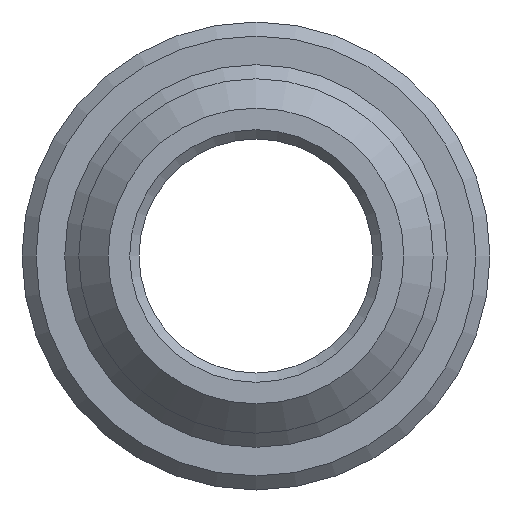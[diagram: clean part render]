
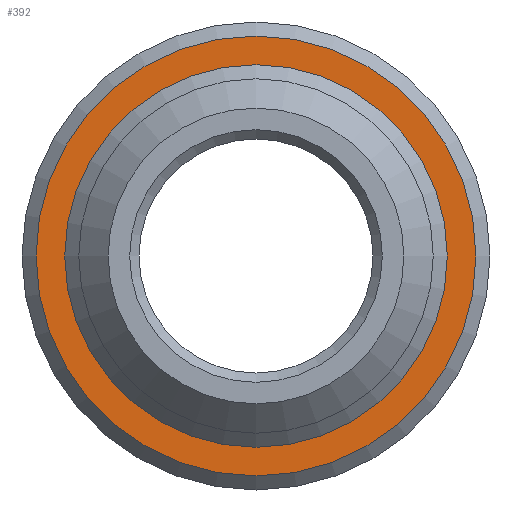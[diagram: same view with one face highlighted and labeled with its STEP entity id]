
A CAD part, front view. The second image highlights one B-rep face of the part: STEP entity #392.
In plain terms, the highlighted planar face has unit normal (0, -1, 0).
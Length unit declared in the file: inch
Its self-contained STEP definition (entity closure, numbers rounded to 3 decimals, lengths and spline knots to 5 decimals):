
#33=FACE_BOUND('',#86,.T.);
#44=PLANE('',#443);
#60=FACE_OUTER_BOUND('',#85,.T.);
#85=EDGE_LOOP('',(#316));
#86=EDGE_LOOP('',(#317));
#158=CIRCLE('',#442,0.20439);
#159=CIRCLE('',#444,0.235);
#195=VERTEX_POINT('',#678);
#196=VERTEX_POINT('',#682);
#243=EDGE_CURVE('',#195,#195,#158,.T.);
#244=EDGE_CURVE('',#196,#196,#159,.T.);
#316=ORIENTED_EDGE('',*,*,#244,.F.);
#317=ORIENTED_EDGE('',*,*,#243,.F.);
#392=ADVANCED_FACE('',(#60,#33),#44,.T.);
#442=AXIS2_PLACEMENT_3D('',#680,#536,#537);
#443=AXIS2_PLACEMENT_3D('',#681,#538,#539);
#444=AXIS2_PLACEMENT_3D('',#683,#540,#541);
#536=DIRECTION('center_axis',(0.,-1.,0.));
#537=DIRECTION('ref_axis',(0.,0.,-1.));
#538=DIRECTION('center_axis',(0.,-1.,0.));
#539=DIRECTION('ref_axis',(0.,0.,-1.));
#540=DIRECTION('center_axis',(0.,1.,0.));
#541=DIRECTION('ref_axis',(0.,0.,1.));
#678=CARTESIAN_POINT('',(0.,6.25,0.20439));
#680=CARTESIAN_POINT('Origin',(0.,6.25,0.));
#681=CARTESIAN_POINT('Origin',(0.,6.25,-0.203));
#682=CARTESIAN_POINT('',(0.,6.25,-0.235));
#683=CARTESIAN_POINT('Origin',(0.,6.25,0.));
